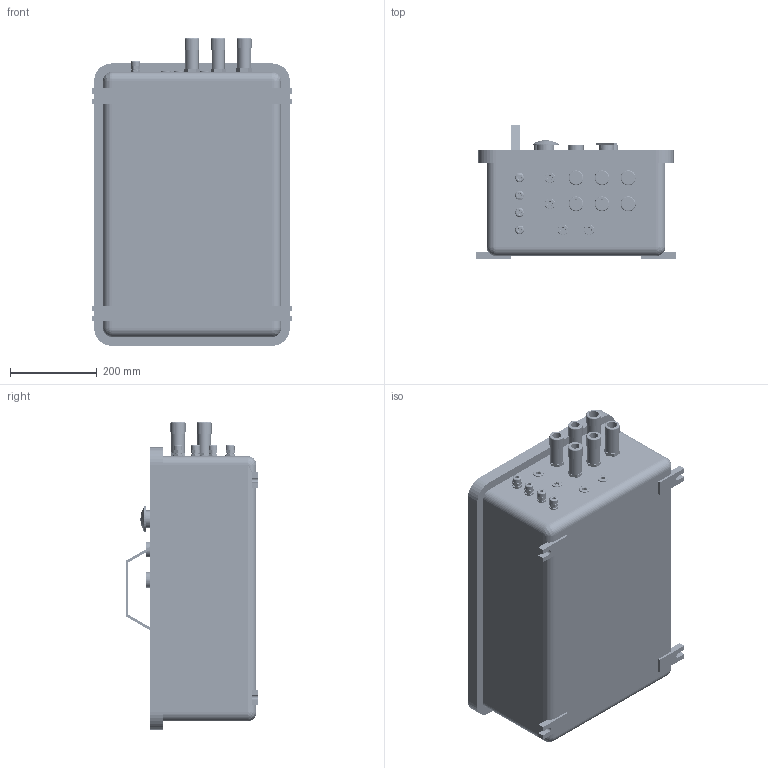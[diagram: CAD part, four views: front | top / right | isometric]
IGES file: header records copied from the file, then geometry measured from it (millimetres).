
Start section:  PTC IGES file: 1639213.igs
Global section: file name: 1639213.igs; native system: Pro/ENGINEER by Parametric Technology Corporation; preprocessor: 2007460; author: RVerdino; organization: Unknown; date: 20111012.121426; units: millimetre
Bounding box: 460 x 306 x 708 mm (x, y, z)
Volume: 16137789.2 mm3; surface area: 2520463.6 mm2
Topology: 2 solids, 2 shells, 8520 faces, 23239 edges, 15124 vertices
Faces by surface type: bspline 5438, revolution 3082
